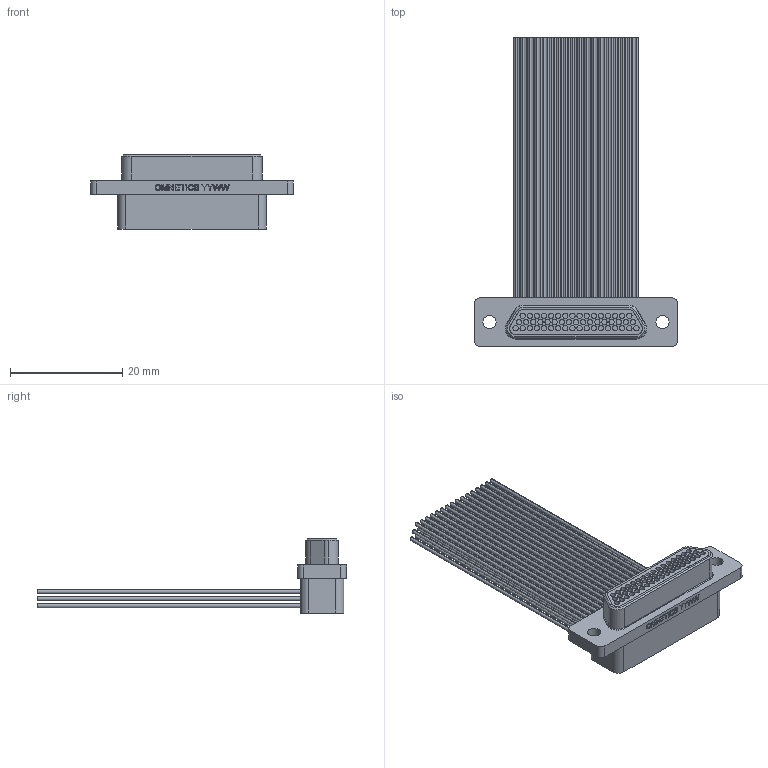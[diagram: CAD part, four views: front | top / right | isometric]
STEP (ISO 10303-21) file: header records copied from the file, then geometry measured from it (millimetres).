
FILE_DESCRIPTION (( 'STEP AP214' ), '1' );
FILE_NAME ('A98202-513 REV A.STEP', '2021-01-20T20:10:27', ( '' ), ( '' ), 'SwSTEP 2.0', 'SolidWorks 2019', '' );
FILE_SCHEMA (( 'AUTOMOTIVE_DESIGN' ));
Length unit declared in the file: inch
Products named in the file (1): A98202-513 REV A
Bounding box: 36.2 x 55.18 x 13.23 mm (x, y, z)
Volume: 3269.4 mm3; surface area: 8180.2 mm2
Topology: 1 solids, 1 shells, 899 faces, 1974 edges, 1240 vertices
Faces by surface type: cylinder 439, plane 294, cone 107, bspline 54, torus 5
Entity records: 39122 total; most frequent: CARTESIAN_POINT 7198, DIRECTION 4437, ORIENTED_EDGE 3936, EDGE_CURVE 1968, AXIS2_PLACEMENT_3D 1735, VERTEX_POINT 1240, EDGE_LOOP 1072, LINE 967
